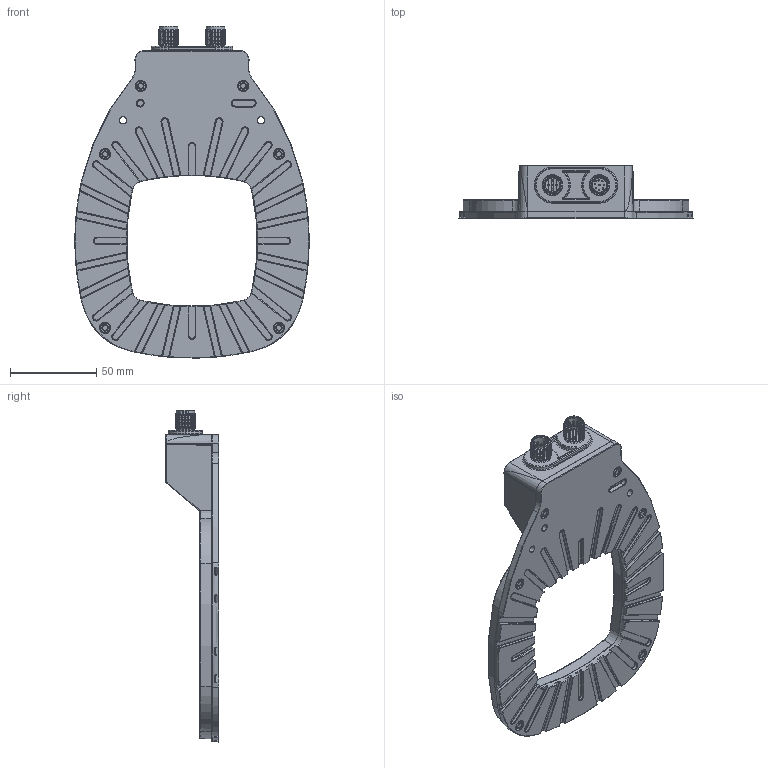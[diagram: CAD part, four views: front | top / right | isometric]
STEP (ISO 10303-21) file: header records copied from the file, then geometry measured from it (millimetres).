
FILE_DESCRIPTION (( 'STEP AP203' ), '1' );
FILE_NAME ('MR-80-R.STEP', '2017-02-07T10:56:38', ( '' ), ( '' ), 'SwSTEP 2.0', 'SolidWorks 2014', '' );
FILE_SCHEMA (( 'CONFIG_CONTROL_DESIGN' ));
Products named in the file (1): MR-80-R
Bounding box: 135.91 x 31 x 192.75 mm (x, y, z)
Volume: 190869.3 mm3; surface area: 49701.5 mm2
Topology: 6 solids, 12 shells, 1820 faces, 4381 edges, 2567 vertices
Faces by surface type: cylinder 572, plane 405, torus 380, bspline 274, cone 109, sphere 80
Entity records: 65265 total; most frequent: CARTESIAN_POINT 24668, DIRECTION 8574, ORIENTED_EDGE 8558, EDGE_CURVE 4279, AXIS2_PLACEMENT_3D 3511, VERTEX_POINT 2567, CIRCLE 1964, EDGE_LOOP 1914
